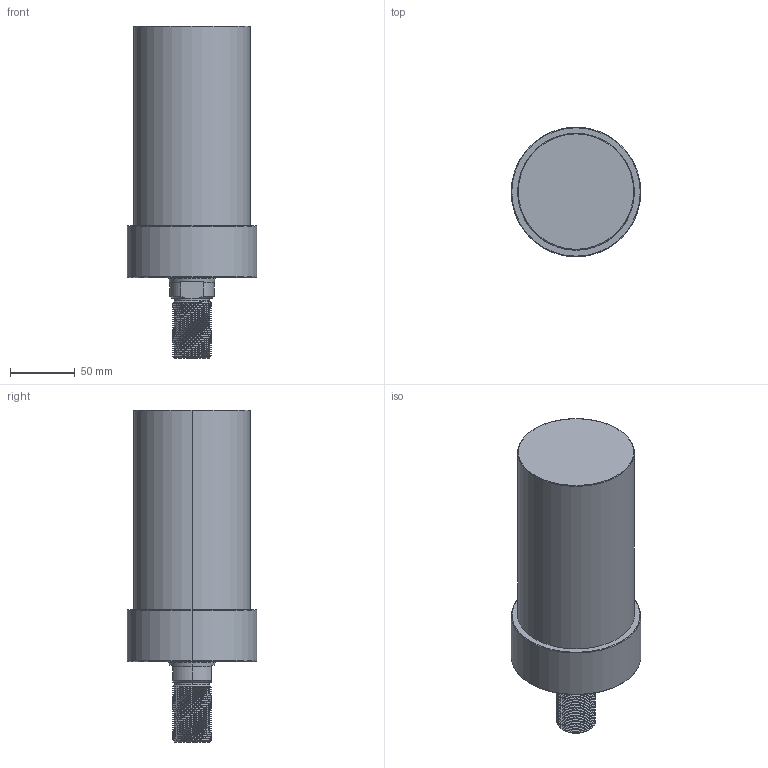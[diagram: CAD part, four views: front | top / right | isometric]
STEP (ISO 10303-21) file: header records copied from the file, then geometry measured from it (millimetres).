
FILE_DESCRIPTION (( 'STEP AP203' ), '1' );
FILE_NAME ('CLLU-090GT-110.STEP', '2020-01-15T01:30:58', ( '' ), ( '' ), 'SwSTEP 2.0', 'SolidWorks 2015', '' );
FILE_SCHEMA (( 'CONFIG_CONTROL_DESIGN' ));
Length unit declared in the file: millimetre
Products named in the file (1): CLLU-090GT-110
Bounding box: 100 x 100 x 256 mm (x, y, z)
Volume: 1331656.1 mm3; surface area: 83797 mm2
Topology: 1 solids, 1 shells, 125 faces, 326 edges, 204 vertices
Faces by surface type: cylinder 79, cone 26, plane 12, torus 6, bspline 2
Entity records: 7191 total; most frequent: CARTESIAN_POINT 4402, ORIENTED_EDGE 636, DIRECTION 515, EDGE_CURVE 318, VERTEX_POINT 204, AXIS2_PLACEMENT_3D 202, EDGE_LOOP 134, FACE_OUTER_BOUND 125
